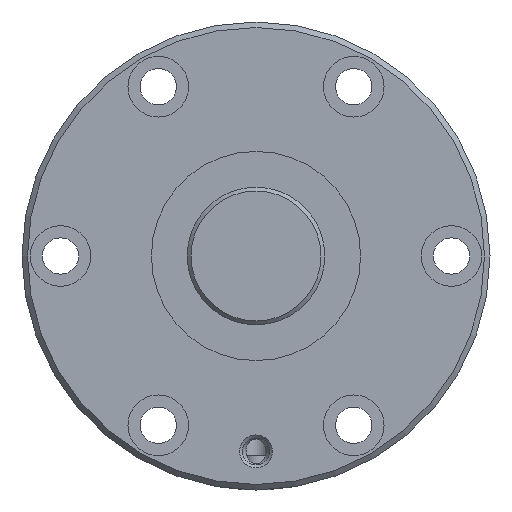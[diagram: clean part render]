
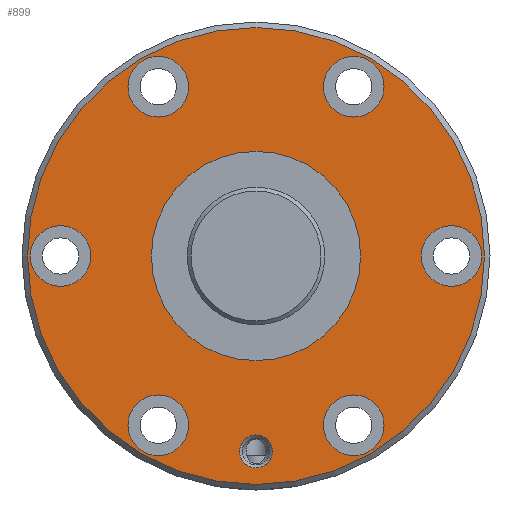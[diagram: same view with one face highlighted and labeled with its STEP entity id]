
A CAD part, left-side view. The second image highlights one B-rep face of the part: STEP entity #899.
In plain terms, the highlighted planar face has unit normal (-1, 0, 0).
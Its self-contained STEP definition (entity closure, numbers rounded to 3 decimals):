
#147=ORIENTED_EDGE('',*,*,#340,.T.);
#148=ORIENTED_EDGE('',*,*,#341,.T.);
#149=ORIENTED_EDGE('',*,*,#342,.T.);
#150=ORIENTED_EDGE('',*,*,#343,.T.);
#151=ORIENTED_EDGE('',*,*,#344,.T.);
#152=ORIENTED_EDGE('',*,*,#345,.T.);
#153=ORIENTED_EDGE('',*,*,#346,.T.);
#154=ORIENTED_EDGE('',*,*,#347,.T.);
#155=ORIENTED_EDGE('',*,*,#339,.F.);
#339=EDGE_CURVE('',#439,#439,#522,.T.);
#340=EDGE_CURVE('',#440,#440,#523,.T.);
#341=EDGE_CURVE('',#441,#441,#524,.F.);
#342=EDGE_CURVE('',#442,#442,#525,.T.);
#343=EDGE_CURVE('',#443,#443,#526,.T.);
#344=EDGE_CURVE('',#444,#444,#527,.T.);
#345=EDGE_CURVE('',#445,#445,#528,.T.);
#346=EDGE_CURVE('',#446,#446,#529,.T.);
#347=EDGE_CURVE('',#447,#447,#530,.T.);
#439=VERTEX_POINT('',#1508);
#440=VERTEX_POINT('',#1511);
#441=VERTEX_POINT('',#1513);
#442=VERTEX_POINT('',#1515);
#443=VERTEX_POINT('',#1517);
#444=VERTEX_POINT('',#1519);
#445=VERTEX_POINT('',#1521);
#446=VERTEX_POINT('',#1523);
#447=VERTEX_POINT('',#1525);
#522=CIRCLE('',#1005,41.5);
#523=CIRCLE('',#1007,19.);
#524=CIRCLE('',#1008,5.5);
#525=CIRCLE('',#1009,3.);
#526=CIRCLE('',#1010,5.5);
#527=CIRCLE('',#1011,5.5);
#528=CIRCLE('',#1012,5.5);
#529=CIRCLE('',#1013,5.5);
#530=CIRCLE('',#1014,5.5);
#602=EDGE_LOOP('',(#147));
#603=EDGE_LOOP('',(#148));
#604=EDGE_LOOP('',(#149));
#605=EDGE_LOOP('',(#150));
#606=EDGE_LOOP('',(#151));
#607=EDGE_LOOP('',(#152));
#608=EDGE_LOOP('',(#153));
#609=EDGE_LOOP('',(#154));
#610=EDGE_LOOP('',(#155));
#742=FACE_BOUND('',#602,.T.);
#743=FACE_BOUND('',#603,.T.);
#744=FACE_BOUND('',#604,.T.);
#745=FACE_BOUND('',#605,.T.);
#746=FACE_BOUND('',#606,.T.);
#747=FACE_BOUND('',#607,.T.);
#748=FACE_BOUND('',#608,.T.);
#749=FACE_BOUND('',#609,.T.);
#750=FACE_BOUND('',#610,.T.);
#864=PLANE('',#1006);
#899=ADVANCED_FACE('',(#742,#743,#744,#745,#746,#747,#748,#749,#750),#864,
 .T.);
#1005=AXIS2_PLACEMENT_3D('',#1507,#1171,#1172);
#1006=AXIS2_PLACEMENT_3D('',#1509,#1173,#1174);
#1007=AXIS2_PLACEMENT_3D('',#1510,#1175,#1176);
#1008=AXIS2_PLACEMENT_3D('',#1512,#1177,#1178);
#1009=AXIS2_PLACEMENT_3D('',#1514,#1179,#1180);
#1010=AXIS2_PLACEMENT_3D('',#1516,#1181,#1182);
#1011=AXIS2_PLACEMENT_3D('',#1518,#1183,#1184);
#1012=AXIS2_PLACEMENT_3D('',#1520,#1185,#1186);
#1013=AXIS2_PLACEMENT_3D('',#1522,#1187,#1188);
#1014=AXIS2_PLACEMENT_3D('',#1524,#1189,#1190);
#1171=DIRECTION('',(1.,0.,0.));
#1172=DIRECTION('',(0.,0.,-1.));
#1173=DIRECTION('',(-1.,0.,0.));
#1174=DIRECTION('',(0.,0.,1.));
#1175=DIRECTION('',(1.,0.,0.));
#1176=DIRECTION('',(0.,0.,-1.));
#1177=DIRECTION('',(-1.,0.,0.));
#1178=DIRECTION('',(0.,0.,1.));
#1179=DIRECTION('',(1.,0.,0.));
#1180=DIRECTION('',(0.,0.,-1.));
#1181=DIRECTION('',(1.,0.,0.));
#1182=DIRECTION('',(0.,0.,-1.));
#1183=DIRECTION('',(1.,0.,0.));
#1184=DIRECTION('',(0.,0.,-1.));
#1185=DIRECTION('',(1.,0.,0.));
#1186=DIRECTION('',(0.,0.,-1.));
#1187=DIRECTION('',(1.,0.,0.));
#1188=DIRECTION('',(0.,0.,-1.));
#1189=DIRECTION('',(1.,0.,0.));
#1190=DIRECTION('',(0.,0.,-1.));
#1507=CARTESIAN_POINT('',(0.,0.,0.));
#1508=CARTESIAN_POINT('',(0.,0.,-41.5));
#1509=CARTESIAN_POINT('',(0.,41.5,0.));
#1510=CARTESIAN_POINT('',(0.,0.,0.));
#1511=CARTESIAN_POINT('',(0.,0.,-19.));
#1512=CARTESIAN_POINT('',(0.,35.5,0.));
#1513=CARTESIAN_POINT('',(0.,35.5,5.5));
#1514=CARTESIAN_POINT('',(0.,0.,-35.5));
#1515=CARTESIAN_POINT('',(0.,0.,-38.5));
#1516=CARTESIAN_POINT('',(0.,-35.5,0.));
#1517=CARTESIAN_POINT('',(0.,-35.5,-5.5));
#1518=CARTESIAN_POINT('',(0.,17.75,30.744));
#1519=CARTESIAN_POINT('',(0.,17.75,25.244));
#1520=CARTESIAN_POINT('',(0.,-17.75,-30.744));
#1521=CARTESIAN_POINT('',(0.,-17.75,-36.244));
#1522=CARTESIAN_POINT('',(0.,-17.75,30.744));
#1523=CARTESIAN_POINT('',(0.,-17.75,25.244));
#1524=CARTESIAN_POINT('',(0.,17.75,-30.744));
#1525=CARTESIAN_POINT('',(0.,17.75,-36.244));
